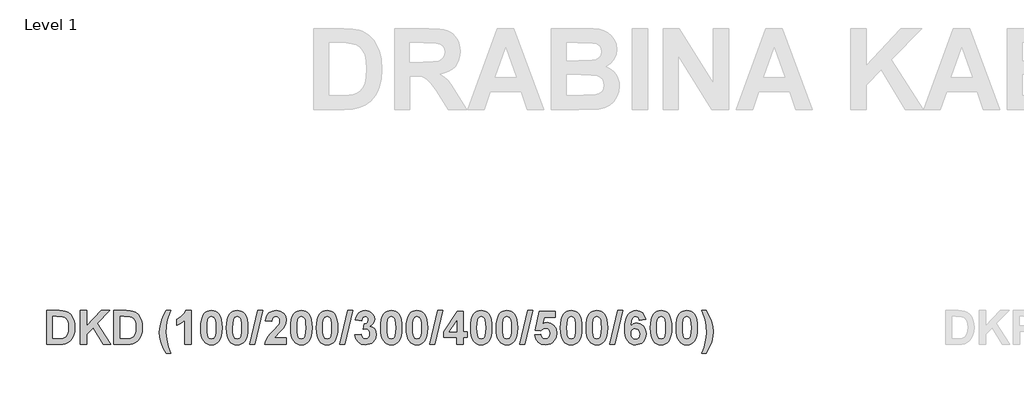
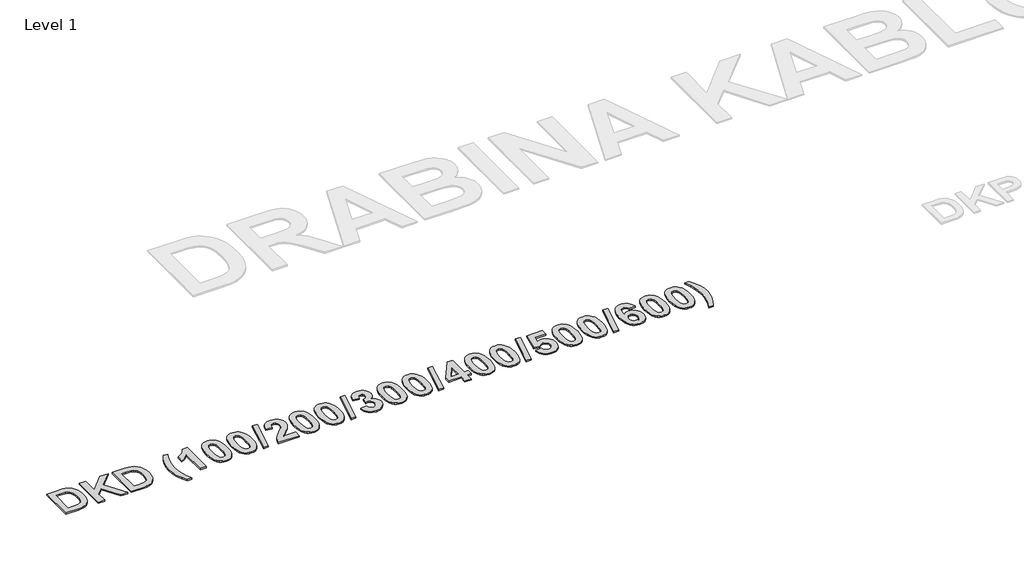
# One storey, part 40 of 42: 1 proxy.
"""IFC4 building model written with IfcOpenShell, lengths in millimetres."""

from ifc_helpers import new_model, si_unit, origin, origin_with_axes, place, context, project, spatial, polyline, outline, extrude, element, save

model = new_model("IFC4")

# Units and contexts
model_context = context("Model", 3, world=origin())
ifc_project = project(units=[si_unit("LENGTHUNIT", "METRE", prefix="MILLI")], contexts=[model_context])

# Site, building, storey
site = spatial("IfcSite", under=ifc_project)
building = spatial("IfcBuilding", under=site)
storey = spatial("IfcBuildingStorey", under=building, Name="Level 1", Elevation=0.0)

# Proxy
placement = place(None, origin())
element("IfcBuildingElementProxy", 1, Name="300mm Arial 2", ObjectType="300mm Arial 2", at=placement, inside=storey, context=model_context, shape_type="SweptSolid", body=[
    extrude(outline(polyline([(31106.8730509, 21442.68636), (31201.3204272, 21442.68636), (31229.4711857, 21441.4686025), (31250.0307284, 21437.8153299), (31270.9382018, 21428.6188883), (31288.6194086, 21414.314191), (31302.7659555, 21395.5575621), (31313.0694494, 21373.0053252), (31319.3559249, 21345.700671), (31321.4514168, 21312.6867899), (31319.4903527, 21283.397349), (31313.6071605, 21258.4095971), (31301.9356662, 21233.2320648), (31286.1522634, 21213.3683835), (31270.3688606, 21201.7601494), (31249.840948, 21192.9986212), (31229.8665615, 21188.9657878), (31204.103873, 21187.62151), (31106.8730509, 21187.62151), (31106.8730509, 21442.68636)]), holes=[polyline([(31155.4568319, 21398.1512275), (31155.4568319, 21232.1566425), (31196.8289578, 21232.1566425), (31230.3568275, 21234.5605275), (31252.719284, 21244.9668192), (31260.7928582, 21254.7009719), (31267.2374841, 21269.1638194), (31271.4600979, 21289.0591308), (31272.8676358, 21315.0906749), (31271.4600979, 21340.7584732), (31267.2374841, 21359.6890675), (31260.4923726, 21373.5430363), (31251.5173415, 21383.980958), (31240.0593502, 21391.2875032), (31225.8653582, 21395.7473425), (31180.3813237, 21398.1512275), (31155.4568319, 21398.1512275)])]), origin_with_axes(), (0.0, 0.0, 1.0), 10.0),
    extrude(outline(polyline([(31361.9379009, 21187.62151), (31361.9379009, 21442.68636), (31410.5216819, 21442.68636), (31410.5216819, 21326.4142384), (31519.9617093, 21442.68636), (31586.6378878, 21442.68636), (31490.1029272, 21345.2657576), (31590.6865362, 21187.62151), (31533.8789382, 21187.62151), (31458.5361216, 21313.3193912), (31410.5216819, 21264.7988704), (31410.5216819, 21187.62151), (31361.9379009, 21187.62151)])), origin_with_axes(), (0.0, 0.0, 1.0), 10.0),
    extrude(outline(polyline([(31617.0027509, 21442.68636), (31711.4501271, 21442.68636), (31739.6008856, 21441.4686025), (31760.1604284, 21437.8153299), (31781.0679018, 21428.6188883), (31798.7491085, 21414.314191), (31812.8956554, 21395.5575621), (31823.1991493, 21373.0053252), (31829.4856249, 21345.700671), (31831.5811168, 21312.6867899), (31829.6200527, 21283.397349), (31823.7368605, 21258.4095971), (31812.0653662, 21233.2320648), (31796.2819634, 21213.3683835), (31780.4985606, 21201.7601494), (31759.970648, 21192.9986212), (31739.9962615, 21188.9657878), (31714.2335729, 21187.62151), (31617.0027509, 21187.62151), (31617.0027509, 21442.68636)]), holes=[polyline([(31665.5865318, 21398.1512275), (31665.5865318, 21232.1566425), (31706.9586578, 21232.1566425), (31740.4865275, 21234.5605275), (31762.8489839, 21244.9668192), (31770.9225582, 21254.7009719), (31777.3671841, 21269.1638194), (31781.5897979, 21289.0591308), (31782.9973358, 21315.0906749), (31781.5897979, 21340.7584732), (31777.3671841, 21359.6890675), (31770.6220726, 21373.5430363), (31761.6470414, 21383.980958), (31750.1890501, 21391.2875032), (31735.9950581, 21395.7473425), (31690.5110236, 21398.1512275), (31665.5865318, 21398.1512275)])]), origin_with_axes(), (0.0, 0.0, 1.0), 10.0),
    extrude(outline(polyline([(32046.1594826, 21118.794487), (32013.7702953, 21118.794487), (31991.0994457, 21158.4664969), (31974.5806439, 21199.6725651), (31964.4985604, 21240.9735234), (31961.137866, 21280.9302039), (31965.2497745, 21328.3278574), (31977.5855001, 21373.1002154), (31993.7800938, 21409.3799008), (32013.7702953, 21442.68636), (32046.1594826, 21442.68636), (32028.5968886, 21395.4468568), (32017.5342731, 21355.8301995), (32011.6748035, 21318.9495429), (32009.7216469, 21279.9180418), (32014.4028966, 21223.2685941), (32027.2447033, 21168.2006497), (32046.1594826, 21118.794487)])), origin_with_axes(), (0.0, 0.0, 1.0), 10.0),
    extrude(outline(polyline([(32200.0081223, 21187.62151), (32151.4243414, 21187.62151), (32151.4243414, 21369.9372088), (32123.3684731, 21346.0565092), (32090.6946152, 21329.3242044), (32090.6946152, 21377.9079854), (32110.1629206, 21386.9937218), (32131.2443594, 21401.7254249), (32149.7005028, 21420.7430019), (32161.2929219, 21442.68636), (32200.0081223, 21442.68636), (32200.0081223, 21187.62151)])), origin_with_axes(), (0.0, 0.0, 1.0), 10.0),
    extrude(outline(polyline([(32353.856762, 21442.68636), (32370.9883963, 21441.0415966), (32386.135244, 21436.1073063), (32399.2973051, 21427.8834892), (32410.4745796, 21416.3701453), (32421.129958, 21398.2421639), (32428.7409426, 21374.9822043), (32433.3075333, 21346.5902666), (32434.8297302, 21313.0663507), (32433.2996258, 21279.5740648), (32428.7093125, 21251.150497), (32421.0587904, 21227.7956472), (32410.3480594, 21209.5095155), (32399.2261375, 21198.1622294), (32386.103614, 21190.0570251), (32370.9804888, 21185.1939025), (32353.856762, 21183.5728616), (32336.5491854, 21185.3520528), (32321.0010312, 21190.6896264), (32307.2122994, 21199.5855824), (32295.1829901, 21212.0399207), (32285.4270917, 21229.0608499), (32278.4585928, 21251.6565781), (32274.2774935, 21279.8271054), (32272.8837937, 21313.5724317), (32274.4138982, 21346.8986597), (32279.0042114, 21375.2036148), (32286.6547336, 21398.4872969), (32297.3654646, 21416.7497061), (32308.4873865, 21428.0969922), (32321.60991, 21436.2021965), (32336.7330351, 21441.0653191), (32353.856762, 21442.68636)]), holes=[polyline([(32353.856762, 21398.1512275), (32337.6621683, 21392.8057464), (32331.3361552, 21385.3331433), (32326.6549055, 21373.6062965), (32322.7644074, 21349.4567413), (32321.4675747, 21313.0663507), (32322.6220721, 21277.1583186), (32326.0855643, 21254.5823591), (32331.3124326, 21241.3293616), (32337.7570585, 21233.3902151), (32353.856762, 21228.1079941), (32370.0513556, 21233.4534752), (32376.3773688, 21240.9260783), (32381.0586185, 21252.6529251), (32384.9491166, 21276.6759601), (32386.2459493, 21313.0663507), (32385.0914519, 21348.9348452), (32381.6279597, 21371.5187121), (32376.4010913, 21384.8112472), (32369.9564654, 21392.8057464), (32353.856762, 21398.1512275)])]), origin_with_axes(), (0.0, 0.0, 1.0), 10.0),
    extrude(outline(polyline([(32548.1918858, 21442.68636), (32565.3235201, 21441.0415966), (32580.4703678, 21436.1073063), (32593.6324289, 21427.8834892), (32604.8097034, 21416.3701453), (32615.4650818, 21398.2421639), (32623.0760664, 21374.9822043), (32627.6426571, 21346.5902666), (32629.164854, 21313.0663507), (32627.6347496, 21279.5740648), (32623.0444363, 21251.150497), (32615.3939142, 21227.7956472), (32604.6831832, 21209.5095155), (32593.5612613, 21198.1622294), (32580.4387378, 21190.0570251), (32565.3156126, 21185.1939025), (32548.1918858, 21183.5728616), (32530.8843092, 21185.3520528), (32515.336155, 21190.6896264), (32501.5474232, 21199.5855824), (32489.5181139, 21212.0399207), (32479.7622155, 21229.0608499), (32472.7937166, 21251.6565781), (32468.6126173, 21279.8271054), (32467.2189175, 21313.5724317), (32468.749022, 21346.8986597), (32473.3393352, 21375.2036148), (32480.9898574, 21398.4872969), (32491.7005884, 21416.7497061), (32502.8225103, 21428.0969922), (32515.9450338, 21436.2021965), (32531.0681589, 21441.0653191), (32548.1918858, 21442.68636)]), holes=[polyline([(32548.1918858, 21398.1512275), (32531.9972921, 21392.8057464), (32525.671279, 21385.3331433), (32520.9900293, 21373.6062965), (32517.0995312, 21349.4567413), (32515.8026985, 21313.0663507), (32516.9571959, 21277.1583186), (32520.4206881, 21254.5823591), (32525.6475564, 21241.3293616), (32532.0921823, 21233.3902151), (32548.1918858, 21228.1079941), (32564.3864794, 21233.4534752), (32570.7124926, 21240.9260783), (32575.3937423, 21252.6529251), (32579.2842404, 21276.6759601), (32580.5810731, 21313.0663507), (32579.4265757, 21348.9348452), (32575.9630835, 21371.5187121), (32570.7362151, 21384.8112472), (32564.2915892, 21392.8057464), (32548.1918858, 21398.1512275)])]), origin_with_axes(), (0.0, 0.0, 1.0), 10.0),
    extrude(outline(polyline([(32644.4738058, 21187.62151), (32705.203532, 21442.68636), (32742.5270096, 21442.68636), (32681.7972834, 21187.62151), (32644.4738058, 21187.62151)])), origin_with_axes(), (0.0, 0.0, 1.0), 10.0),
    extrude(outline(polyline([(32920.6675397, 21236.205291), (32920.6675397, 21187.62151), (32758.7216032, 21187.62151), (32763.893119, 21212.1269034), (32774.2203354, 21235.2880191), (32793.4039703, 21261.469806), (32825.1447412, 21295.0372132), (32862.7212593, 21335.7767379), (32869.7431339, 21350.4847184), (32872.0837588, 21365.0029186), (32870.1147872, 21379.1494655), (32864.2078724, 21389.5794797), (32854.8374654, 21396.0082905), (32842.4780173, 21398.1512275), (32830.2055518, 21396.0399206), (32820.716532, 21389.7059999), (32814.3272588, 21378.4852341), (32811.3540326, 21361.7133918), (32762.7702516, 21366.141601), (32771.3736295, 21401.2905115), (32778.9964754, 21414.5296709), (32788.8334258, 21424.878633), (32813.457432, 21438.2344283), (32843.5534395, 21442.68636), (32875.6895863, 21437.6967171), (32900.107997, 21422.7277885), (32915.5276541, 21400.3416095), (32920.6675397, 21373.1002154), (32915.037388, 21340.9640686), (32897.198031, 21309.0177023), (32866.9913182, 21277.134596), (32839.2517506, 21249.4899186), (32830.1422916, 21236.205291), (32920.6675397, 21236.205291)])), origin_with_axes(), (0.0, 0.0, 1.0), 10.0),
    extrude(outline(polyline([(33034.0296953, 21442.68636), (33051.1613296, 21441.0415966), (33066.3081774, 21436.1073063), (33079.4702385, 21427.8834892), (33090.6475129, 21416.3701453), (33101.3028913, 21398.2421639), (33108.9138759, 21374.9822043), (33113.4804666, 21346.5902666), (33115.0026635, 21313.0663507), (33113.4725591, 21279.5740648), (33108.8822458, 21251.150497), (33101.2317237, 21227.7956472), (33090.5209927, 21209.5095155), (33079.3990708, 21198.1622294), (33066.2765473, 21190.0570251), (33051.1534221, 21185.1939025), (33034.0296953, 21183.5728616), (33016.7221187, 21185.3520528), (33001.1739645, 21190.6896264), (32987.3852327, 21199.5855824), (32975.3559234, 21212.0399207), (32965.600025, 21229.0608499), (32958.6315261, 21251.6565781), (32954.4504268, 21279.8271054), (32953.056727, 21313.5724317), (32954.5868315, 21346.8986597), (32959.1771447, 21375.2036148), (32966.8276669, 21398.4872969), (32977.5383979, 21416.7497061), (32988.6603198, 21428.0969922), (33001.7828433, 21436.2021965), (33016.9059685, 21441.0653191), (33034.0296953, 21442.68636)]), holes=[polyline([(33034.0296953, 21398.1512275), (33017.8351016, 21392.8057464), (33011.5090885, 21385.3331433), (33006.8278388, 21373.6062965), (33002.9373407, 21349.4567413), (33001.640508, 21313.0663507), (33002.7950054, 21277.1583186), (33006.2584976, 21254.5823591), (33011.4853659, 21241.3293616), (33017.9299918, 21233.3902151), (33034.0296953, 21228.1079941), (33050.2242889, 21233.4534752), (33056.5503021, 21240.9260783), (33061.2315518, 21252.6529251), (33065.1220499, 21276.6759601), (33066.4188826, 21313.0663507), (33065.2643852, 21348.9348452), (33061.800893, 21371.5187121), (33056.5740246, 21384.8112472), (33050.1293987, 21392.8057464), (33034.0296953, 21398.1512275)])]), origin_with_axes(), (0.0, 0.0, 1.0), 10.0),
    extrude(outline(polyline([(33228.3648191, 21442.68636), (33245.4964534, 21441.0415966), (33260.6433012, 21436.1073063), (33273.8053623, 21427.8834892), (33284.9826367, 21416.3701453), (33295.6380151, 21398.2421639), (33303.2489997, 21374.9822043), (33307.8155904, 21346.5902666), (33309.3377873, 21313.0663507), (33307.8076829, 21279.5740648), (33303.2173696, 21251.150497), (33295.5668475, 21227.7956472), (33284.8561165, 21209.5095155), (33273.7341946, 21198.1622294), (33260.6116711, 21190.0570251), (33245.4885459, 21185.1939025), (33228.3648191, 21183.5728616), (33211.0572425, 21185.3520528), (33195.5090883, 21190.6896264), (33181.7203565, 21199.5855824), (33169.6910472, 21212.0399207), (33159.9351488, 21229.0608499), (33152.9666499, 21251.6565781), (33148.7855506, 21279.8271054), (33147.3918508, 21313.5724317), (33148.9219553, 21346.8986597), (33153.5122686, 21375.2036148), (33161.1627907, 21398.4872969), (33171.8735217, 21416.7497061), (33182.9954436, 21428.0969922), (33196.1179671, 21436.2021965), (33211.2410923, 21441.0653191), (33228.3648191, 21442.68636)]), holes=[polyline([(33228.3648191, 21398.1512275), (33212.1702254, 21392.8057464), (33205.8442123, 21385.3331433), (33201.1629626, 21373.6062965), (33197.2724645, 21349.4567413), (33195.9756318, 21313.0663507), (33197.1301292, 21277.1583186), (33200.5936214, 21254.5823591), (33205.8204897, 21241.3293616), (33212.2651156, 21233.3902151), (33228.3648191, 21228.1079941), (33244.5594127, 21233.4534752), (33250.8854259, 21240.9260783), (33255.5666756, 21252.6529251), (33259.4571737, 21276.6759601), (33260.7540064, 21313.0663507), (33259.599509, 21348.9348452), (33256.1360168, 21371.5187121), (33250.9091484, 21384.8112472), (33244.4645225, 21392.8057464), (33228.3648191, 21398.1512275)])]), origin_with_axes(), (0.0, 0.0, 1.0), 10.0),
    extrude(outline(polyline([(33324.6467391, 21187.62151), (33385.3764653, 21442.68636), (33422.6999429, 21442.68636), (33361.9702167, 21187.62151), (33324.6467391, 21187.62151)])), origin_with_axes(), (0.0, 0.0, 1.0), 10.0),
    extrude(outline(polyline([(33438.8945365, 21258.9156782), (33487.4783175, 21264.5458298), (33491.2264803, 21248.9205774), (33498.4223202, 21237.4704936), (33508.2750857, 21230.448619), (33519.994025, 21228.1079941), (33532.5669762, 21230.7886422), (33542.9574528, 21238.8305864), (33549.9318823, 21251.4114451), (33552.2566921, 21267.7088364), (33550.1295702, 21283.1284935), (33543.7482044, 21294.9739531), (33534.2987223, 21302.5177237), (33522.9672512, 21305.032314), (33503.6729111, 21301.4264865), (33507.9113399, 21341.4701497), (33521.7415862, 21343.2098033), (33531.8552997, 21349.4409262), (33538.0468851, 21359.3095068), (33540.1107468, 21371.961533), (33538.5687811, 21382.7078479), (33533.942884, 21391.0344627), (33526.7549516, 21396.3720363), (33517.5268799, 21398.1512275), (33508.1406579, 21396.0873657), (33500.225234, 21389.8957803), (33494.4606545, 21379.7346217), (33491.5269659, 21365.7620402), (33442.9431849, 21373.0369553), (33448.502169, 21394.7747179), (33456.3227027, 21411.6572655), (33467.045295, 21424.5702399), (33481.3104547, 21434.3992828), (33498.3037075, 21440.6145907), (33517.2105793, 21442.68636), (33547.860113, 21436.9455031), (33560.646567, 21429.7694319), (33571.7408126, 21419.7229323), (33584.456099, 21399.7011007), (33588.6945278, 21377.212124), (33586.4211168, 21361.2666171), (33579.6008839, 21347.0212262), (33568.233829, 21334.4759514), (33552.3199522, 21323.6307926), (33572.1836335, 21316.0791144), (33587.6191056, 21302.7865793), (33597.5351312, 21284.9234997), (33600.840473, 21263.660188), (33594.9810034, 21232.8920416), (33577.4025943, 21207.0107403), (33564.9660479, 21196.7566684), (33551.0942872, 21189.4323313), (33519.0451231, 21183.5728616), (33488.7830577, 21188.7839149), (33464.166959, 21204.4170749), (33446.9522958, 21228.4638324), (33438.8945365, 21258.9156782)])), origin_with_axes(), (0.0, 0.0, 1.0), 10.0),
    extrude(outline(polyline([(33714.2026286, 21442.68636), (33731.3342629, 21441.0415966), (33746.4811107, 21436.1073063), (33759.6431718, 21427.8834892), (33770.8204462, 21416.3701453), (33781.4758246, 21398.2421639), (33789.0868092, 21374.9822043), (33793.6533999, 21346.5902666), (33795.1755968, 21313.0663507), (33793.6454924, 21279.5740648), (33789.0551791, 21251.150497), (33781.404657, 21227.7956472), (33770.693926, 21209.5095155), (33759.5720041, 21198.1622294), (33746.4494806, 21190.0570251), (33731.3263554, 21185.1939025), (33714.2026286, 21183.5728616), (33696.895052, 21185.3520528), (33681.3468978, 21190.6896264), (33667.558166, 21199.5855824), (33655.5288567, 21212.0399207), (33645.7729583, 21229.0608499), (33638.8044594, 21251.6565781), (33634.6233601, 21279.8271054), (33633.2296603, 21313.5724317), (33634.7597648, 21346.8986597), (33639.3500781, 21375.2036148), (33647.0006002, 21398.4872969), (33657.7113312, 21416.7497061), (33668.8332531, 21428.0969922), (33681.9557766, 21436.2021965), (33697.0789018, 21441.0653191), (33714.2026286, 21442.68636)]), holes=[polyline([(33714.2026286, 21398.1512275), (33698.0080349, 21392.8057464), (33691.6820218, 21385.3331433), (33687.0007721, 21373.6062965), (33683.110274, 21349.4567413), (33681.8134413, 21313.0663507), (33682.9679387, 21277.1583186), (33686.4314309, 21254.5823591), (33691.6582992, 21241.3293616), (33698.1029251, 21233.3902151), (33714.2026286, 21228.1079941), (33730.3972222, 21233.4534752), (33736.7232354, 21240.9260783), (33741.4044851, 21252.6529251), (33745.2949832, 21276.6759601), (33746.5918159, 21313.0663507), (33745.4373185, 21348.9348452), (33741.9738263, 21371.5187121), (33736.7469579, 21384.8112472), (33730.302332, 21392.8057464), (33714.2026286, 21398.1512275)])]), origin_with_axes(), (0.0, 0.0, 1.0), 10.0),
    extrude(outline(polyline([(33908.5377524, 21442.68636), (33925.6693867, 21441.0415966), (33940.8162345, 21436.1073063), (33953.9782956, 21427.8834892), (33965.15557, 21416.3701453), (33975.8109484, 21398.2421639), (33983.421933, 21374.9822043), (33987.9885237, 21346.5902666), (33989.5107206, 21313.0663507), (33987.9806162, 21279.5740648), (33983.3903029, 21251.150497), (33975.7397808, 21227.7956472), (33965.0290498, 21209.5095155), (33953.9071279, 21198.1622294), (33940.7846044, 21190.0570251), (33925.6614792, 21185.1939025), (33908.5377524, 21183.5728616), (33891.2301758, 21185.3520528), (33875.6820216, 21190.6896264), (33861.8932898, 21199.5855824), (33849.8639805, 21212.0399207), (33840.1080821, 21229.0608499), (33833.1395832, 21251.6565781), (33828.9584839, 21279.8271054), (33827.5647841, 21313.5724317), (33829.0948886, 21346.8986597), (33833.6852019, 21375.2036148), (33841.335724, 21398.4872969), (33852.046455, 21416.7497061), (33863.1683769, 21428.0969922), (33876.2909004, 21436.2021965), (33891.4140256, 21441.0653191), (33908.5377524, 21442.68636)]), holes=[polyline([(33908.5377524, 21398.1512275), (33892.3431587, 21392.8057464), (33886.0171456, 21385.3331433), (33881.3358959, 21373.6062965), (33877.4453978, 21349.4567413), (33876.1485651, 21313.0663507), (33877.3030625, 21277.1583186), (33880.7665547, 21254.5823591), (33885.993423, 21241.3293616), (33892.4380489, 21233.3902151), (33908.5377524, 21228.1079941), (33924.732346, 21233.4534752), (33931.0583592, 21240.9260783), (33935.7396089, 21252.6529251), (33939.630107, 21276.6759601), (33940.9269397, 21313.0663507), (33939.7724423, 21348.9348452), (33936.3089501, 21371.5187121), (33931.0820817, 21384.8112472), (33924.6374558, 21392.8057464), (33908.5377524, 21398.1512275)])]), origin_with_axes(), (0.0, 0.0, 1.0), 10.0),
    extrude(outline(polyline([(34004.8196724, 21187.62151), (34065.5493986, 21442.68636), (34102.8728762, 21442.68636), (34042.14315, 21187.62151), (34004.8196724, 21187.62151)])), origin_with_axes(), (0.0, 0.0, 1.0), 10.0),
    extrude(outline(polyline([(34208.1377349, 21187.62151), (34208.1377349, 21240.2539394), (34110.970173, 21240.2539394), (34110.970173, 21280.5506431), (34214.5902683, 21438.6377116), (34256.7215159, 21438.6377116), (34256.7215159, 21280.7404235), (34289.1107032, 21280.7404235), (34289.1107032, 21240.2539394), (34256.7215159, 21240.2539394), (34256.7215159, 21187.62151), (34208.1377349, 21187.62151)]), holes=[polyline([(34208.1377349, 21280.7404235), (34208.1377349, 21363.6111957), (34153.8605421, 21280.7404235), (34208.1377349, 21280.7404235)])]), origin_with_axes(), (0.0, 0.0, 1.0), 10.0),
    extrude(outline(polyline([(34394.3755619, 21442.68636), (34411.5071962, 21441.0415966), (34426.654044, 21436.1073063), (34439.8161051, 21427.8834892), (34450.9933795, 21416.3701453), (34461.6487579, 21398.2421639), (34469.2597425, 21374.9822043), (34473.8263332, 21346.5902666), (34475.3485301, 21313.0663507), (34473.8184257, 21279.5740648), (34469.2281124, 21251.150497), (34461.5775903, 21227.7956472), (34450.8668593, 21209.5095155), (34439.7449374, 21198.1622294), (34426.6224139, 21190.0570251), (34411.4992887, 21185.1939025), (34394.3755619, 21183.5728616), (34377.0679853, 21185.3520528), (34361.5198311, 21190.6896264), (34347.7310993, 21199.5855824), (34335.70179, 21212.0399207), (34325.9458916, 21229.0608499), (34318.9773927, 21251.6565781), (34314.7962934, 21279.8271054), (34313.4025936, 21313.5724317), (34314.9326981, 21346.8986597), (34319.5230114, 21375.2036148), (34327.1735335, 21398.4872969), (34337.8842645, 21416.7497061), (34349.0061864, 21428.0969922), (34362.1287099, 21436.2021965), (34377.2518351, 21441.0653191), (34394.3755619, 21442.68636)]), holes=[polyline([(34394.3755619, 21398.1512275), (34378.1809682, 21392.8057464), (34371.8549551, 21385.3331433), (34367.1737054, 21373.6062965), (34363.2832073, 21349.4567413), (34361.9863746, 21313.0663507), (34363.140872, 21277.1583186), (34366.6043642, 21254.5823591), (34371.8312325, 21241.3293616), (34378.2758584, 21233.3902151), (34394.3755619, 21228.1079941), (34410.5701555, 21233.4534752), (34416.8961687, 21240.9260783), (34421.5774184, 21252.6529251), (34425.4679165, 21276.6759601), (34426.7647492, 21313.0663507), (34425.6102518, 21348.9348452), (34422.1467596, 21371.5187121), (34416.9198912, 21384.8112472), (34410.4752653, 21392.8057464), (34394.3755619, 21398.1512275)])]), origin_with_axes(), (0.0, 0.0, 1.0), 10.0),
    extrude(outline(polyline([(34588.7106857, 21442.68636), (34605.84232, 21441.0415966), (34620.9891678, 21436.1073063), (34634.1512289, 21427.8834892), (34645.3285033, 21416.3701453), (34655.9838817, 21398.2421639), (34663.5948663, 21374.9822043), (34668.161457, 21346.5902666), (34669.6836539, 21313.0663507), (34668.1535495, 21279.5740648), (34663.5632362, 21251.150497), (34655.9127141, 21227.7956472), (34645.2019831, 21209.5095155), (34634.0800612, 21198.1622294), (34620.9575377, 21190.0570251), (34605.8344125, 21185.1939025), (34588.7106857, 21183.5728616), (34571.4031091, 21185.3520528), (34555.8549549, 21190.6896264), (34542.0662231, 21199.5855824), (34530.0369138, 21212.0399207), (34520.2810154, 21229.0608499), (34513.3125165, 21251.6565781), (34509.1314172, 21279.8271054), (34507.7377174, 21313.5724317), (34509.2678219, 21346.8986597), (34513.8581352, 21375.2036148), (34521.5086573, 21398.4872969), (34532.2193883, 21416.7497061), (34543.3413102, 21428.0969922), (34556.4638337, 21436.2021965), (34571.5869589, 21441.0653191), (34588.7106857, 21442.68636)]), holes=[polyline([(34588.7106857, 21398.1512275), (34572.516092, 21392.8057464), (34566.1900789, 21385.3331433), (34561.5088292, 21373.6062965), (34557.6183311, 21349.4567413), (34556.3214984, 21313.0663507), (34557.4759958, 21277.1583186), (34560.939488, 21254.5823591), (34566.1663563, 21241.3293616), (34572.6109822, 21233.3902151), (34588.7106857, 21228.1079941), (34604.9052793, 21233.4534752), (34611.2312925, 21240.9260783), (34615.9125422, 21252.6529251), (34619.8030403, 21276.6759601), (34621.099873, 21313.0663507), (34619.9453756, 21348.9348452), (34616.4818834, 21371.5187121), (34611.255015, 21384.8112472), (34604.8103891, 21392.8057464), (34588.7106857, 21398.1512275)])]), origin_with_axes(), (0.0, 0.0, 1.0), 10.0),
    extrude(outline(polyline([(34684.9926058, 21187.62151), (34745.7223319, 21442.68636), (34783.0458095, 21442.68636), (34722.3160833, 21187.62151), (34684.9926058, 21187.62151)])), origin_with_axes(), (0.0, 0.0, 1.0), 10.0),
    extrude(outline(polyline([(34799.2404031, 21259.4217592), (34843.7755357, 21264.5458298), (34847.9190743, 21249.4741035), (34856.1745214, 21237.9133145), (34867.2766745, 21230.5593242), (34879.9603309, 21228.1079941), (34894.1543229, 21230.709567), (34905.991875, 21238.5142858), (34913.9863741, 21251.5537804), (34916.6512071, 21269.8596809), (34914.1761545, 21287.0189915), (34906.7509965, 21299.275642), (34895.3562654, 21306.6296323), (34880.972493, 21309.0809624), (34862.1526039, 21304.0201519), (34845.4202991, 21288.8377203), (34803.2890516, 21295.1004733), (34831.6295904, 21438.6377116), (34953.0890428, 21438.6377116), (34953.0890428, 21390.0539306), (34870.9141321, 21390.0539306), (34861.1088117, 21343.6842543), (34876.5917289, 21351.1331348), (34892.4225768, 21353.6160949), (34920.5417052, 21347.8673305), (34944.042844, 21330.6210371), (34959.9369521, 21304.2020247), (34965.2349881, 21270.9351031), (34960.8225939, 21242.009408), (34947.5854114, 21216.3416097), (34934.3679977, 21202.0052824), (34918.8178666, 21191.7650486), (34900.9350182, 21185.6209084), (34880.7194524, 21183.5728616), (34849.7140805, 21188.7127473), (34825.0189067, 21204.1324043), (34807.8042434, 21228.2345144), (34799.2404031, 21259.4217592)])), origin_with_axes(), (0.0, 0.0, 1.0), 10.0),
    extrude(outline(polyline([(35074.5484952, 21442.68636), (35091.6801295, 21441.0415966), (35106.8269773, 21436.1073063), (35119.9890384, 21427.8834892), (35131.1663128, 21416.3701453), (35141.8216912, 21398.2421639), (35149.4326758, 21374.9822043), (35153.9992665, 21346.5902666), (35155.5214634, 21313.0663507), (35153.991359, 21279.5740648), (35149.4010457, 21251.150497), (35141.7505236, 21227.7956472), (35131.0397926, 21209.5095155), (35119.9178707, 21198.1622294), (35106.7953472, 21190.0570251), (35091.672222, 21185.1939025), (35074.5484952, 21183.5728616), (35057.2409186, 21185.3520528), (35041.6927644, 21190.6896264), (35027.9040327, 21199.5855824), (35015.8747233, 21212.0399207), (35006.1188249, 21229.0608499), (34999.150326, 21251.6565781), (34994.9692267, 21279.8271054), (34993.5755269, 21313.5724317), (34995.1056314, 21346.8986597), (34999.6959447, 21375.2036148), (35007.3464668, 21398.4872969), (35018.0571978, 21416.7497061), (35029.1791197, 21428.0969922), (35042.3016432, 21436.2021965), (35057.4247684, 21441.0653191), (35074.5484952, 21442.68636)]), holes=[polyline([(35074.5484952, 21398.1512275), (35058.3539015, 21392.8057464), (35052.0278884, 21385.3331433), (35047.3466387, 21373.6062965), (35043.4561406, 21349.4567413), (35042.1593079, 21313.0663507), (35043.3138053, 21277.1583186), (35046.7772975, 21254.5823591), (35052.0041659, 21241.3293616), (35058.4487917, 21233.3902151), (35074.5484952, 21228.1079941), (35090.7430888, 21233.4534752), (35097.069102, 21240.9260783), (35101.7503517, 21252.6529251), (35105.6408498, 21276.6759601), (35106.9376825, 21313.0663507), (35105.7831851, 21348.9348452), (35102.3196929, 21371.5187121), (35097.0928245, 21384.8112472), (35090.6481986, 21392.8057464), (35074.5484952, 21398.1512275)])]), origin_with_axes(), (0.0, 0.0, 1.0), 10.0),
    extrude(outline(polyline([(35268.883619, 21442.68636), (35286.0152533, 21441.0415966), (35301.1621011, 21436.1073063), (35314.3241622, 21427.8834892), (35325.5014366, 21416.3701453), (35336.156815, 21398.2421639), (35343.7677996, 21374.9822043), (35348.3343903, 21346.5902666), (35349.8565872, 21313.0663507), (35348.3264828, 21279.5740648), (35343.7361695, 21251.150497), (35336.0856474, 21227.7956472), (35325.3749164, 21209.5095155), (35314.2529945, 21198.1622294), (35301.130471, 21190.0570251), (35286.0073458, 21185.1939025), (35268.883619, 21183.5728616), (35251.5760424, 21185.3520528), (35236.0278882, 21190.6896264), (35222.2391565, 21199.5855824), (35210.2098471, 21212.0399207), (35200.4539487, 21229.0608499), (35193.4854498, 21251.6565781), (35189.3043505, 21279.8271054), (35187.9106507, 21313.5724317), (35189.4407552, 21346.8986597), (35194.0310685, 21375.2036148), (35201.6815906, 21398.4872969), (35212.3923216, 21416.7497061), (35223.5142435, 21428.0969922), (35236.636767, 21436.2021965), (35251.7598922, 21441.0653191), (35268.883619, 21442.68636)]), holes=[polyline([(35268.883619, 21398.1512275), (35252.6890253, 21392.8057464), (35246.3630122, 21385.3331433), (35241.6817625, 21373.6062965), (35237.7912644, 21349.4567413), (35236.4944317, 21313.0663507), (35237.6489291, 21277.1583186), (35241.1124213, 21254.5823591), (35246.3392897, 21241.3293616), (35252.7839155, 21233.3902151), (35268.883619, 21228.1079941), (35285.0782126, 21233.4534752), (35291.4042258, 21240.9260783), (35296.0854755, 21252.6529251), (35299.9759736, 21276.6759601), (35301.2728063, 21313.0663507), (35300.1183089, 21348.9348452), (35296.6548167, 21371.5187121), (35291.4279483, 21384.8112472), (35284.9833225, 21392.8057464), (35268.883619, 21398.1512275)])]), origin_with_axes(), (0.0, 0.0, 1.0), 10.0),
    extrude(outline(polyline([(35365.1655391, 21187.62151), (35425.8952652, 21442.68636), (35463.2187428, 21442.68636), (35402.4890166, 21187.62151), (35365.1655391, 21187.62151)])), origin_with_axes(), (0.0, 0.0, 1.0), 10.0),
    extrude(outline(polyline([(35637.3106245, 21374.9980194), (35588.7268436, 21369.8106886), (35585.7536174, 21382.4073622), (35580.1234657, 21391.2242431), (35572.1210591, 21396.4194814), (35562.0310681, 21398.1512275), (35548.4301399, 21394.790533), (35537.1065763, 21384.7084495), (35528.8036841, 21363.8721437), (35524.2647696, 21328.2487822), (35544.2866012, 21344.2377804), (35568.6733819, 21349.5674465), (35596.4999322, 21343.8740347), (35620.0089786, 21326.7937992), (35636.0216994, 21300.71481), (35641.359273, 21268.0251371), (35635.9030866, 21233.587903), (35629.0828537, 21219.1982), (35619.5345276, 21206.6944396), (35607.8432646, 21196.5787492), (35594.5942208, 21189.3532561), (35563.422791, 21183.5728616), (35545.8918271, 21185.4390355), (35529.9898115, 21191.0375571), (35515.7167444, 21200.3684265), (35503.0726256, 21213.4316436), (35492.7216866, 21230.7451509), (35485.3281587, 21252.8268905), (35480.892042, 21279.6768625), (35479.4133364, 21311.295067), (35480.957279, 21343.7475144), (35485.5891068, 21371.3289317), (35493.3088197, 21394.0393189), (35504.1164178, 21411.878676), (35517.391161, 21425.3570377), (35532.5123093, 21434.984439), (35549.4798627, 21440.7608797), (35568.2938211, 21442.68636), (35593.6136887, 21438.353041), (35614.1574164, 21425.353084), (35629.0235473, 21404.0976798), (35637.3106245, 21374.9980194)]), holes=[polyline([(35527.9971174, 21269.1005593), (35530.6224129, 21251.6803006), (35538.4982992, 21238.7673263), (35549.7427876, 21230.7728272), (35562.473889, 21228.1079941), (35574.3667937, 21230.2904687), (35584.108854, 21236.8378923), (35590.6088325, 21248.3670512), (35592.775492, 21265.4947318), (35590.4427747, 21283.2471062), (35583.4446226, 21295.5116642), (35572.9513483, 21302.6521515), (35560.1332642, 21305.032314), (35547.6947408, 21302.7549492), (35537.3279868, 21295.922855), (35530.3298347, 21284.6625516), (35527.9971174, 21269.1005593)])]), origin_with_axes(), (0.0, 0.0, 1.0), 10.0),
    extrude(outline(polyline([(35754.7214285, 21442.68636), (35771.8530628, 21441.0415966), (35786.9999106, 21436.1073063), (35800.1619717, 21427.8834892), (35811.3392461, 21416.3701453), (35821.9946245, 21398.2421639), (35829.6056091, 21374.9822043), (35834.1721998, 21346.5902666), (35835.6943968, 21313.0663507), (35834.1642923, 21279.5740648), (35829.573979, 21251.150497), (35821.9234569, 21227.7956472), (35811.2127259, 21209.5095155), (35800.090804, 21198.1622294), (35786.9682805, 21190.0570251), (35771.8451553, 21185.1939025), (35754.7214285, 21183.5728616), (35737.4138519, 21185.3520528), (35721.8656977, 21190.6896264), (35708.076966, 21199.5855824), (35696.0476566, 21212.0399207), (35686.2917582, 21229.0608499), (35679.3232593, 21251.6565781), (35675.14216, 21279.8271054), (35673.7484603, 21313.5724317), (35675.2785647, 21346.8986597), (35679.868878, 21375.2036148), (35687.5194001, 21398.4872969), (35698.2301311, 21416.7497061), (35709.352053, 21428.0969922), (35722.4745765, 21436.2021965), (35737.5977017, 21441.0653191), (35754.7214285, 21442.68636)]), holes=[polyline([(35754.7214285, 21398.1512275), (35738.5268349, 21392.8057464), (35732.2008217, 21385.3331433), (35727.519572, 21373.6062965), (35723.6290739, 21349.4567413), (35722.3322412, 21313.0663507), (35723.4867386, 21277.1583186), (35726.9502308, 21254.5823591), (35732.1770992, 21241.3293616), (35738.621725, 21233.3902151), (35754.7214285, 21228.1079941), (35770.9160222, 21233.4534752), (35777.2420353, 21240.9260783), (35781.923285, 21252.6529251), (35785.8137831, 21276.6759601), (35787.1106158, 21313.0663507), (35785.9561184, 21348.9348452), (35782.4926262, 21371.5187121), (35777.2657578, 21384.8112472), (35770.821132, 21392.8057464), (35754.7214285, 21398.1512275)])]), origin_with_axes(), (0.0, 0.0, 1.0), 10.0),
    extrude(outline(polyline([(35949.0565523, 21442.68636), (35966.1881867, 21441.0415966), (35981.3350344, 21436.1073063), (35994.4970955, 21427.8834892), (36005.6743699, 21416.3701453), (36016.3297483, 21398.2421639), (36023.9407329, 21374.9822043), (36028.5073236, 21346.5902666), (36030.0295206, 21313.0663507), (36028.4994161, 21279.5740648), (36023.9091028, 21251.150497), (36016.2585807, 21227.7956472), (36005.5478497, 21209.5095155), (35994.4259278, 21198.1622294), (35981.3034043, 21190.0570251), (35966.1802791, 21185.1939025), (35949.0565523, 21183.5728616), (35931.7489757, 21185.3520528), (35916.2008215, 21190.6896264), (35902.4120898, 21199.5855824), (35890.3827804, 21212.0399207), (35880.626882, 21229.0608499), (35873.6583831, 21251.6565781), (35869.4772838, 21279.8271054), (35868.0835841, 21313.5724317), (35869.6136885, 21346.8986597), (35874.2040018, 21375.2036148), (35881.8545239, 21398.4872969), (35892.5652549, 21416.7497061), (35903.6871768, 21428.0969922), (35916.8097003, 21436.2021965), (35931.9328255, 21441.0653191), (35949.0565523, 21442.68636)]), holes=[polyline([(35949.0565523, 21398.1512275), (35932.8619587, 21392.8057464), (35926.5359455, 21385.3331433), (35921.8546958, 21373.6062965), (35917.9641977, 21349.4567413), (35916.667365, 21313.0663507), (35917.8218624, 21277.1583186), (35921.2853546, 21254.5823591), (35926.512223, 21241.3293616), (35932.9568488, 21233.3902151), (35949.0565523, 21228.1079941), (35965.251146, 21233.4534752), (35971.5771591, 21240.9260783), (35976.2584088, 21252.6529251), (35980.1489069, 21276.6759601), (35981.4457396, 21313.0663507), (35980.2912422, 21348.9348452), (35976.82775, 21371.5187121), (35971.6008816, 21384.8112472), (35965.1562558, 21392.8057464), (35949.0565523, 21398.1512275)])]), origin_with_axes(), (0.0, 0.0, 1.0), 10.0),
    extrude(outline(polyline([(36062.4187079, 21118.794487), (36080.4162153, 21164.7846026), (36090.0950154, 21201.6968893), (36096.7056991, 21241.3926217), (36098.8565436, 21279.9180418), (36096.9112945, 21318.9495429), (36091.0755474, 21355.8301995), (36080.0208394, 21395.4468568), (36062.4187079, 21442.68636), (36094.8078952, 21442.68636), (36117.0042938, 21405.3470674), (36133.6179858, 21365.8253003), (36143.9847398, 21324.9276253), (36147.4403245, 21283.4606092), (36144.6726938, 21246.9595133), (36136.3698015, 21207.9280122), (36119.6533118, 21163.060764), (36094.8078952, 21118.794487), (36062.4187079, 21118.794487)])), origin_with_axes(), (0.0, 0.0, 1.0), 10.0),
])

save(model, "model.ifc")
